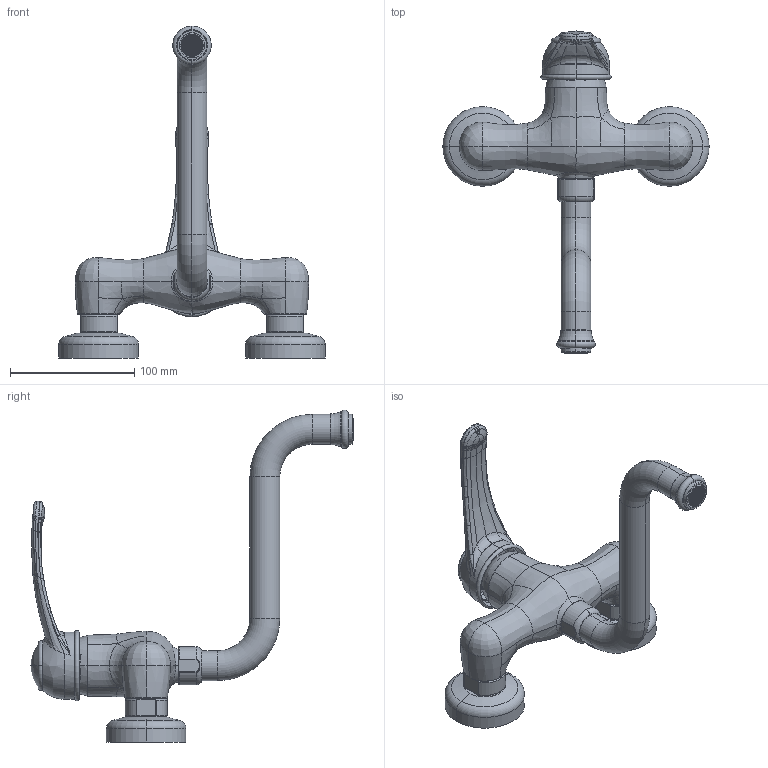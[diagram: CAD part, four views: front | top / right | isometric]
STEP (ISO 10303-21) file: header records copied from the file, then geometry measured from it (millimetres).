
FILE_DESCRIPTION((''),'2;1');
FILE_NAME('29150_SW0001','2026-05-15T15:30:40',('carloff'),(''),'CREO PARAMETRIC BY PTC INC, 2022014','CREO PARAMETRIC BY PTC INC, 2022014','');
FILE_SCHEMA(('CONFIG_CONTROL_DESIGN'));
Length unit declared in the file: millimetre
Products named in the file (1): 29150_SW0001
Bounding box: 214 x 259.11 x 266.8 mm (x, y, z)
Volume: 295065.3 mm3; surface area: 216653.1 mm2
Topology: 2 solids, 4 shells, 5228 faces, 15936 edges, 8941 vertices
Faces by surface type: plane 2869, cylinder 1026, bspline 700, torus 354, cone 209, sphere 70
Entity records: 233523 total; most frequent: CARTESIAN_POINT 95124, ORIENTED_EDGE 31812, DIRECTION 26404, EDGE_CURVE 15906, VECTOR 10420, LINE 10420, VERTEX_POINT 8942, AXIS2_PLACEMENT_3D 7992
